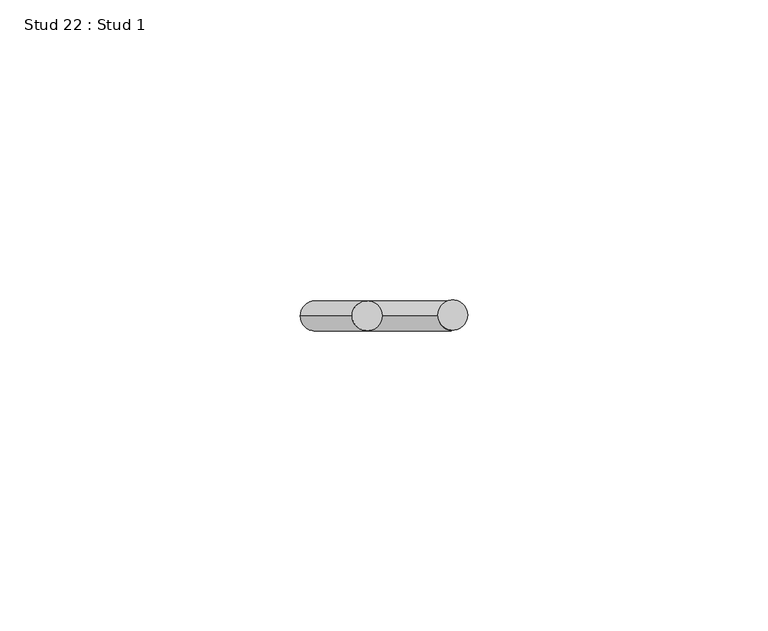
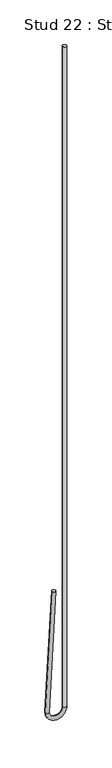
"""IFC4 building model written with IfcOpenShell, lengths in millimetres: proxy geometry, Stud 22 : Stud 1."""

from ifc_helpers import new_model, si_unit, point, frame, origin, place, context, project, spatial, circle_curve, ellipse_curve, trimmed, source, transform, mapped, element, save
from ifc_brep_helpers import plane_surface, cylinder_surface, revolved_surface, advanced_brep


def stud_22_stud_1_c9112a40(model_context):
    return source(origin(), model_context, "Body", "AdvancedBrep", [
        advanced_brep(
        [(-13440.3532788, 2138.5191481, 3640.800192), (-13435.3601311, 2138.5191481, 3640.5385122), (-13448.9939451, 2138.5191481, 3475.9264558), (-13444.0007975, 2138.5191481, 3475.664776), (-13426.0920812, 2138.5191481, 3475.7956159), (-13421.0920812, 2138.5191481, 3475.7956159), (-13421.0920812, 2138.5191481, 4390.1956159), (-13426.0920812, 2138.5191481, 4390.1956159)],
        [
            (0, 1, circle_curve(frame((-13437.8567049, 2138.5191481, 3640.6693521), z_axis=(0.05233595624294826, 0.0, 0.9986295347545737), x_axis=(0.9986295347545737, 0.0, -0.05233595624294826)), 2.5)),
            (1, 0, circle_curve(frame((-13437.8567049, 2138.5191481, 3640.6693521), z_axis=(0.05233595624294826, 0.0, 0.9986295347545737), x_axis=(0.9986295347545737, 0.0, -0.05233595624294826)), 2.5)),
            (0, 2),
            (2, 3, circle_curve(frame((-13446.4973713, 2138.5191481, 3475.7956159), z_axis=(0.05233595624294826, 0.0, 0.9986295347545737), x_axis=(0.9986295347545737, 0.0, -0.05233595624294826)), 2.5)),
            (3, 1),
            (3, 2, circle_curve(frame((-13446.4973713, 2138.5191481, 3475.7956159), z_axis=(0.05233595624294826, 0.0, 0.9986295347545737), x_axis=(0.9986295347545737, 0.0, -0.05233595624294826)), 2.5)),
            (4, 3, circle_curve(frame((-13435.0447263, 2138.5191481, 3475.7956159), z_axis=(0.0, 1.0, 0.0), x_axis=(-1.0, 0.0, 0.0)), 8.952645)),
            (2, 5, circle_curve(frame((-13435.0447263, 2138.5191481, 3475.7956159), z_axis=(0.0, -1.0, 0.0), x_axis=(-1.0, 0.0, 0.0)), 13.952645)),
            (5, 4, circle_curve(frame((-13423.5920812, 2138.5191481, 3475.7956159), z_axis=(0.0, 0.0, -1.0), x_axis=(-1.0, 0.0, 0.0)), 2.5)),
            (4, 5, circle_curve(frame((-13423.5920812, 2138.5191481, 3475.7956159), z_axis=(0.0, 0.0, -1.0), x_axis=(-1.0, 0.0, 0.0)), 2.5)),
            (6, 7, circle_curve(frame((-13423.5920812, 2138.5191481, 4390.1956159), z_axis=(0.0, 0.0, 1.0), x_axis=(-1.0, 0.0, 0.0)), 2.5)),
            (7, 6, circle_curve(frame((-13423.5920812, 2138.5191481, 4390.1956159), z_axis=(0.0, 0.0, 1.0), x_axis=(-1.0, 0.0, 0.0)), 2.5)),
            (5, 6),
            (7, 4),
        ],
        [
            plane_surface(frame((-13437.8567049, 2732.2441481, 3640.6693521), z_axis=(0.05233595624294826, 0.0, 0.9986295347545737), x_axis=(0.0, -1.0, 0.0))),
            cylinder_surface(frame((-13437.8567049, 2138.5191481, 3640.6693521), z_axis=(0.05233595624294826, 0.0, 0.9986295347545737), x_axis=(0.9986295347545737, 0.0, -0.05233595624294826)), 2.5),
            revolved_surface(trimmed(ellipse_curve(frame((-13446.4973713, 2138.5191481, 3475.7956159), z_axis=(0.0, 0.0, 1.0), x_axis=(1.0, 0.0, 0.0)), 2.5, 2.5), [point((-13448.9973713, 2138.5191481, 3475.7956159))], [point((-13443.9973713, 2138.5191481, 3475.7956159))], True, "CARTESIAN"), (-13435.0447263, 2732.2441481, 3475.7956159), (0.0, -1.0, 0.0)),
            revolved_surface(trimmed(ellipse_curve(frame((-13446.4973713, 2138.5191481, 3475.7956159), z_axis=(0.0, 0.0, 1.0), x_axis=(1.0, 0.0, 0.0)), 2.5, 2.5), [point((-13443.9973713, 2138.5191481, 3475.7956159))], [point((-13448.9973713, 2138.5191481, 3475.7956159))], True, "CARTESIAN"), (-13435.0447263, 2732.2441481, 3475.7956159), (0.0, -1.0, 0.0)),
            plane_surface(frame((-13423.5920812, 2732.2441481, 4390.1956159), z_axis=(0.0, 0.0, 1.0), x_axis=(0.0, -1.0, 0.0))),
            cylinder_surface(frame((-13423.5920812, 2138.5191481, 3475.7956159), z_axis=(0.0, 0.0, -1.0), x_axis=(-1.0, 0.0, 0.0)), 2.5),
        ],
        [
            (0, [[1, 2]]),
            (1, [[-1, 3, 4, 5]]),
            (1, [[-2, -5, 6, -3]]),
            (2, [[7, -4, 8, 9]]),
            (3, [[-8, -6, -7, 10]]),
            (4, [[11, 12]]),
            (5, [[-9, 13, -12, 14]]),
            (5, [[-10, -14, -11, -13]]),
        ],
    ),
    ])


if __name__ == "__main__":
    model = new_model("IFC4")
    model_context = context("Model", 3, world=origin())
    ifc_project = project(units=[si_unit("LENGTHUNIT", "METRE", prefix="MILLI")], contexts=[model_context])
    site = spatial("IfcSite", under=ifc_project)
    building = spatial("IfcBuilding", under=site)
    placement = place(None, origin())
    stud_22_stud_1_shape = stud_22_stud_1_c9112a40(model_context)
    element("IfcBuildingElementProxy", 1, Name="Stud 22 : Stud 1", ObjectType="Stud 22 : Stud 1", at=placement, inside=building, context=model_context, shape_type="MappedRepresentation", body=[
        mapped(stud_22_stud_1_shape, transform((0.0, 0.0, 0.0), x_axis=(1.0, 0.0, 0.0), y_axis=(0.0, 1.0, 0.0), z_axis=(0.0, 0.0, 1.0))),
    ])
    save(model, "model.ifc")
